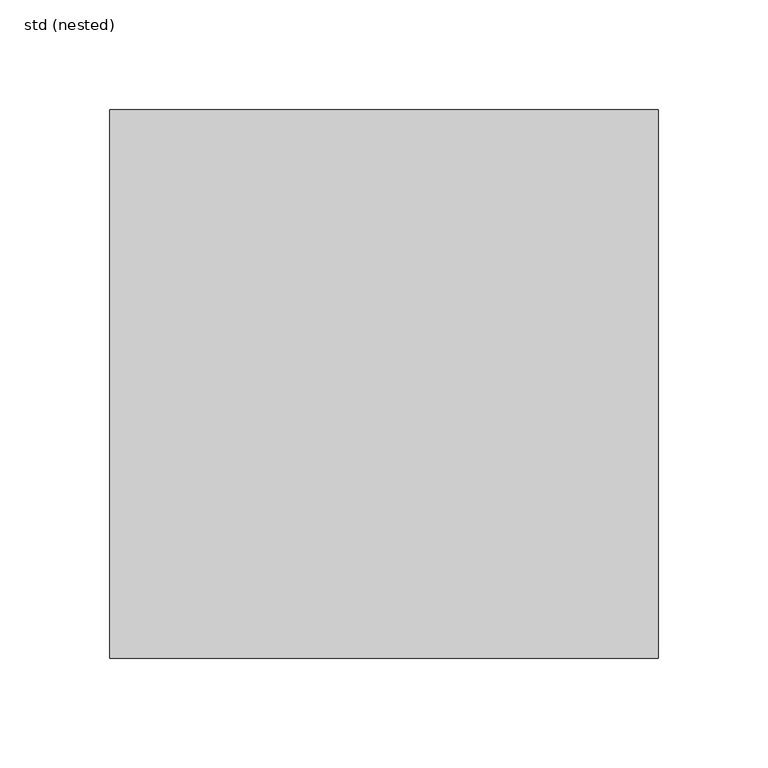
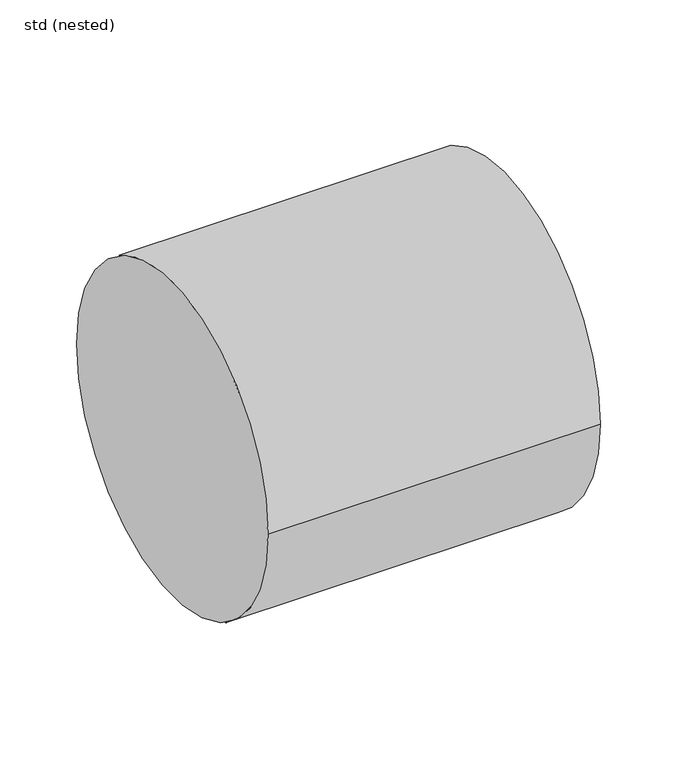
"""IFC4 building model written with IfcOpenShell, lengths in millimetres: pipe segment geometry, NLRS_52_PIF_UN_SN4 SN8 buis -SH_Dyka : std (nested)."""

from ifc_helpers import new_model, si_unit, point, frame, origin, origin_2d, place, context, project, spatial, circle_curve, trimmed, segment, composite_curve, outline, extrude, source, transform, mapped, element, save


def std_nested_caeae70b(model_context):
    return source(origin(), model_context, "Body", "SweptSolid", [
        extrude(outline(composite_curve([segment(trimmed(circle_curve(origin_2d(), 125.0), [point((-125.0, 0.0))], [point((125.0, 0.0))], False, "CARTESIAN"), True, "CONTINUOUS"), segment(trimmed(circle_curve(origin_2d(), 125.0), [point((125.0, 0.0))], [point((-125.0, 0.0))], False, "CARTESIAN"), True, "CONTINUOUS")], self_intersect=False)), frame((0.0, 0.0, 0.0), z_axis=(1.0, 0.0, 0.0), x_axis=(0.0, 1.0, 0.0)), (0.0, 0.0, 1.0), 250.0),
    ])


if __name__ == "__main__":
    model = new_model("IFC4")
    model_context = context("Model", 3, world=origin())
    ifc_project = project(units=[si_unit("LENGTHUNIT", "METRE", prefix="MILLI")], contexts=[model_context])
    site = spatial("IfcSite", under=ifc_project)
    building = spatial("IfcBuilding", under=site)
    placement = place(None, origin())
    std_nested_shape = std_nested_caeae70b(model_context)
    element("IfcPipeSegment", 1, ObjectType="NLRS_52_PIF_UN_SN4 SN8 buis -SH_Dyka : std (nested)", at=placement, inside=building, context=model_context, shape_type="MappedRepresentation", body=[
        mapped(std_nested_shape, transform((0.0, 0.0, 0.0), x_axis=(1.0, 0.0, 0.0), y_axis=(0.0, 1.0, 0.0), z_axis=(0.0, 0.0, 1.0))),
    ])
    save(model, "model.ifc")
